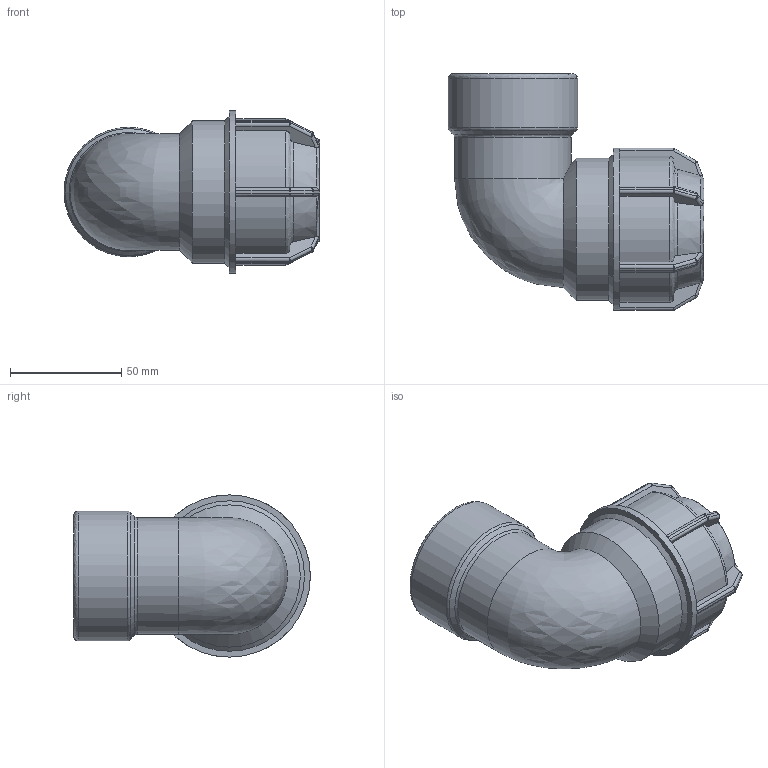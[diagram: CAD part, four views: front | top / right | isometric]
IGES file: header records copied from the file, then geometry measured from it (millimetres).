
Global section: file name: 141500040015.ipt; native system: Autodesk Inventor 2015; preprocessor: unknown; author: KIM; date: 20180409.131201; units: millimetre
Bounding box: 115.15 x 106.5 x 73 mm (x, y, z)
Volume: 212151.9 mm3; surface area: 51597.4 mm2
Topology: 1 solids, 1 shells, 213 faces, 516 edges, 302 vertices
Faces by surface type: plane 98, cylinder 58, sphere 24, revolution 23, cone 9, bspline 1
Full cylindrical faces by diameter (mm): 52.469 x1, 58.298 x1, 64 x1, 73 x1
